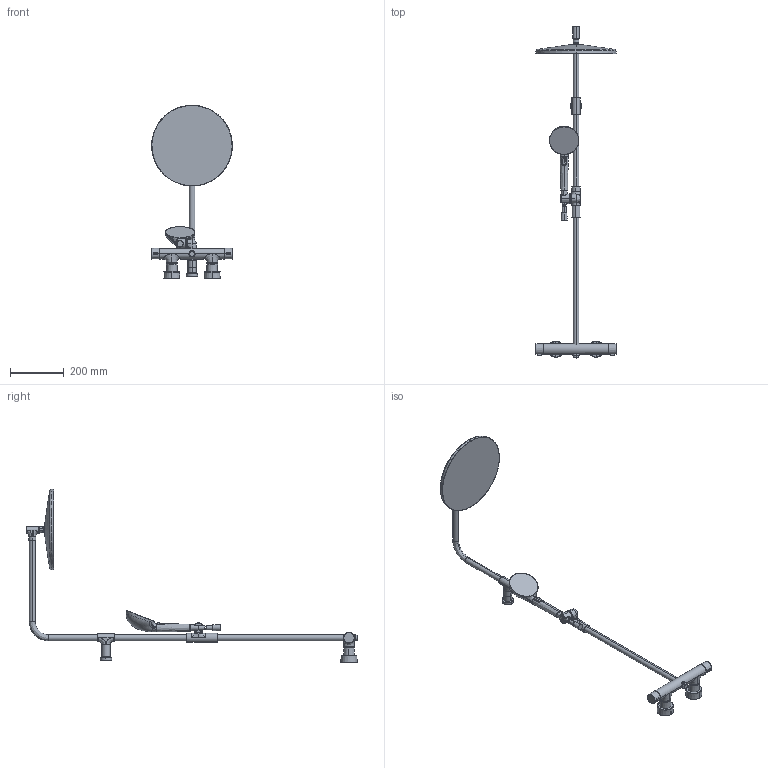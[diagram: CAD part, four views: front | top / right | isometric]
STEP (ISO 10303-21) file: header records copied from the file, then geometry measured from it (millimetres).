
FILE_DESCRIPTION (( 'STEP AP203' ), '1' );
FILE_NAME ('4792(2024).STEP', '2024-03-27T12:07:55', ( '' ), ( '' ), 'SwSTEP 2.0', 'SolidWorks 2016', '' );
FILE_SCHEMA (( 'CONFIG_CONTROL_DESIGN' ));
Length unit declared in the file: millimetre
Products named in the file (1): 4792(2024)
Bounding box: 300 x 1233.59 x 644.85 mm (x, y, z)
Volume: 3460812.9 mm3; surface area: 459638.6 mm2
Topology: 24 solids, 24 shells, 520 faces, 1283 edges, 806 vertices
Faces by surface type: bspline 282, plane 76, cylinder 70, cone 47, torus 23, sphere 22
Entity records: 44602 total; most frequent: CARTESIAN_POINT 34026, ORIENTED_EDGE 2530, DIRECTION 1796, EDGE_CURVE 1265, AXIS2_PLACEMENT_3D 810, VERTEX_POINT 806, CIRCLE 571, EDGE_LOOP 533
